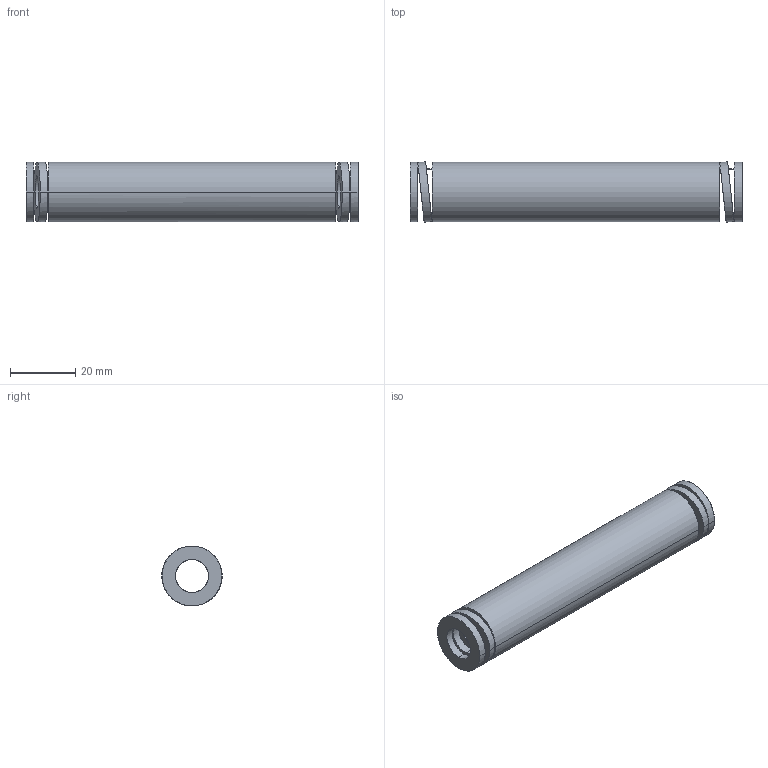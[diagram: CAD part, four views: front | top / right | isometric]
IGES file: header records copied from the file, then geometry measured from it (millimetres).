
Start section: START RECORD GO HERE.
Global section: file name: 392-B20-102.igs; native system: DASSAULT SYSTEMES CATIA V5 R20 - www.3ds.com; preprocessor: CATIA Version 5 Release 20 ; author: Utente; organization: NB04-ASUS; date: 20210812.154804; units: millimetre
Bounding box: 102 x 18.55 x 18.4 mm (x, y, z)
Surface area: 10645.2 mm2 (no closed solid volume)
Topology: 0 solids, 0 shells, 38 faces, 184 edges, 184 vertices
Faces by surface type: revolution 28, plane 10
